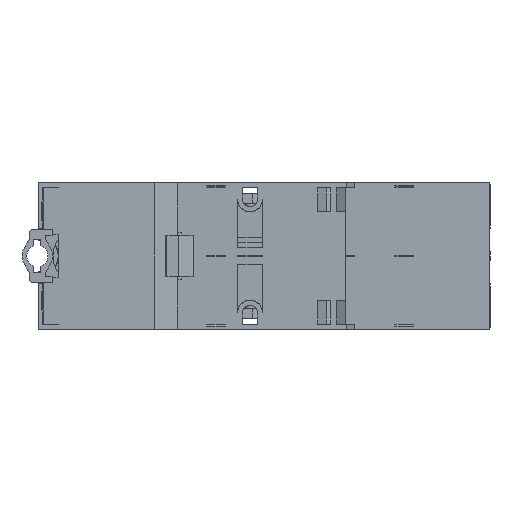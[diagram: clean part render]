
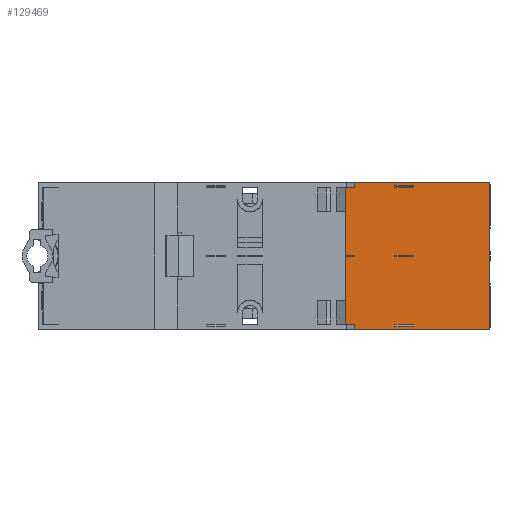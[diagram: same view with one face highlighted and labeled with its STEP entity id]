
A CAD part, front view. The second image highlights one B-rep face of the part: STEP entity #129469.
In plain terms, the highlighted planar face has unit normal (0, -1, 0).
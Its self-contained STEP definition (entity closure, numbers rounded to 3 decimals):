
#4129=CIRCLE('',#169313,0.3);
#4130=CIRCLE('',#169314,0.3);
#19382=ORIENTED_EDGE('',*,*,#45193,.F.);
#19383=ORIENTED_EDGE('',*,*,#45194,.T.);
#19384=ORIENTED_EDGE('',*,*,#45195,.T.);
#19385=ORIENTED_EDGE('',*,*,#45196,.F.);
#19386=ORIENTED_EDGE('',*,*,#45197,.F.);
#19387=ORIENTED_EDGE('',*,*,#45198,.T.);
#19388=ORIENTED_EDGE('',*,*,#45199,.T.);
#19389=ORIENTED_EDGE('',*,*,#45200,.F.);
#19390=ORIENTED_EDGE('',*,*,#45201,.F.);
#19391=ORIENTED_EDGE('',*,*,#45202,.F.);
#19392=ORIENTED_EDGE('',*,*,#45203,.T.);
#19393=ORIENTED_EDGE('',*,*,#45204,.F.);
#19394=ORIENTED_EDGE('',*,*,#45205,.F.);
#19395=ORIENTED_EDGE('',*,*,#45206,.F.);
#19396=ORIENTED_EDGE('',*,*,#45207,.F.);
#19397=ORIENTED_EDGE('',*,*,#45208,.F.);
#19398=ORIENTED_EDGE('',*,*,#45209,.F.);
#19399=ORIENTED_EDGE('',*,*,#45210,.F.);
#19400=ORIENTED_EDGE('',*,*,#45211,.F.);
#19401=ORIENTED_EDGE('',*,*,#45212,.T.);
#19402=ORIENTED_EDGE('',*,*,#45213,.F.);
#19403=ORIENTED_EDGE('',*,*,#45214,.F.);
#19404=ORIENTED_EDGE('',*,*,#45215,.F.);
#19405=ORIENTED_EDGE('',*,*,#45216,.F.);
#19406=ORIENTED_EDGE('',*,*,#45217,.F.);
#19407=ORIENTED_EDGE('',*,*,#45218,.F.);
#45193=EDGE_CURVE('',#67703,#67704,#86643,.T.);
#45194=EDGE_CURVE('',#67703,#67705,#86644,.T.);
#45195=EDGE_CURVE('',#67705,#67706,#86645,.T.);
#45196=EDGE_CURVE('',#67704,#67706,#86646,.T.);
#45197=EDGE_CURVE('',#67707,#67708,#86647,.T.);
#45198=EDGE_CURVE('',#67707,#67709,#86648,.T.);
#45199=EDGE_CURVE('',#67709,#67710,#86649,.T.);
#45200=EDGE_CURVE('',#67708,#67710,#86650,.T.);
#45201=EDGE_CURVE('',#67711,#67712,#86651,.T.);
#45202=EDGE_CURVE('',#67713,#67711,#86652,.T.);
#45203=EDGE_CURVE('',#67713,#67714,#86653,.T.);
#45204=EDGE_CURVE('',#67712,#67714,#86654,.T.);
#45205=EDGE_CURVE('',#67715,#67716,#86655,.T.);
#45206=EDGE_CURVE('',#67717,#67715,#86656,.T.);
#45207=EDGE_CURVE('',#67718,#67717,#86657,.T.);
#45208=EDGE_CURVE('',#67719,#67718,#86658,.T.);
#45209=EDGE_CURVE('',#67720,#67719,#86659,.T.);
#45210=EDGE_CURVE('',#67721,#67720,#86660,.T.);
#45211=EDGE_CURVE('',#67722,#67721,#4129,.T.);
#45212=EDGE_CURVE('',#67722,#67723,#86661,.T.);
#45213=EDGE_CURVE('',#67724,#67723,#4130,.T.);
#45214=EDGE_CURVE('',#67725,#67724,#86662,.T.);
#45215=EDGE_CURVE('',#67726,#67725,#86663,.T.);
#45216=EDGE_CURVE('',#67727,#67726,#86664,.T.);
#45217=EDGE_CURVE('',#67728,#67727,#86665,.T.);
#45218=EDGE_CURVE('',#67716,#67728,#86666,.T.);
#67703=VERTEX_POINT('',#241241);
#67704=VERTEX_POINT('',#241242);
#67705=VERTEX_POINT('',#241244);
#67706=VERTEX_POINT('',#241246);
#67707=VERTEX_POINT('',#241249);
#67708=VERTEX_POINT('',#241250);
#67709=VERTEX_POINT('',#241252);
#67710=VERTEX_POINT('',#241254);
#67711=VERTEX_POINT('',#241257);
#67712=VERTEX_POINT('',#241258);
#67713=VERTEX_POINT('',#241260);
#67714=VERTEX_POINT('',#241262);
#67715=VERTEX_POINT('',#241265);
#67716=VERTEX_POINT('',#241266);
#67717=VERTEX_POINT('',#241268);
#67718=VERTEX_POINT('',#241270);
#67719=VERTEX_POINT('',#241272);
#67720=VERTEX_POINT('',#241274);
#67721=VERTEX_POINT('',#241276);
#67722=VERTEX_POINT('',#241278);
#67723=VERTEX_POINT('',#241280);
#67724=VERTEX_POINT('',#241282);
#67725=VERTEX_POINT('',#241284);
#67726=VERTEX_POINT('',#241286);
#67727=VERTEX_POINT('',#241288);
#67728=VERTEX_POINT('',#241290);
#86643=LINE('',#241240,#105476);
#86644=LINE('',#241243,#105477);
#86645=LINE('',#241245,#105478);
#86646=LINE('',#241247,#105479);
#86647=LINE('',#241248,#105480);
#86648=LINE('',#241251,#105481);
#86649=LINE('',#241253,#105482);
#86650=LINE('',#241255,#105483);
#86651=LINE('',#241256,#105484);
#86652=LINE('',#241259,#105485);
#86653=LINE('',#241261,#105486);
#86654=LINE('',#241263,#105487);
#86655=LINE('',#241264,#105488);
#86656=LINE('',#241267,#105489);
#86657=LINE('',#241269,#105490);
#86658=LINE('',#241271,#105491);
#86659=LINE('',#241273,#105492);
#86660=LINE('',#241275,#105493);
#86661=LINE('',#241279,#105494);
#86662=LINE('',#241283,#105495);
#86663=LINE('',#241285,#105496);
#86664=LINE('',#241287,#105497);
#86665=LINE('',#241289,#105498);
#86666=LINE('',#241291,#105499);
#105476=VECTOR('',#194271,1000.);
#105477=VECTOR('',#194272,1000.);
#105478=VECTOR('',#194273,1000.);
#105479=VECTOR('',#194274,1000.);
#105480=VECTOR('',#194275,1000.);
#105481=VECTOR('',#194276,1000.);
#105482=VECTOR('',#194277,1000.);
#105483=VECTOR('',#194278,1000.);
#105484=VECTOR('',#194279,1000.);
#105485=VECTOR('',#194280,1000.);
#105486=VECTOR('',#194281,1000.);
#105487=VECTOR('',#194282,1000.);
#105488=VECTOR('',#194283,1000.);
#105489=VECTOR('',#194284,1000.);
#105490=VECTOR('',#194285,1000.);
#105491=VECTOR('',#194286,1000.);
#105492=VECTOR('',#194287,1000.);
#105493=VECTOR('',#194288,1000.);
#105494=VECTOR('',#194291,1000.);
#105495=VECTOR('',#194294,1000.);
#105496=VECTOR('',#194295,1000.);
#105497=VECTOR('',#194296,1000.);
#105498=VECTOR('',#194297,1000.);
#105499=VECTOR('',#194298,1000.);
#115245=EDGE_LOOP('',(#19382,#19383,#19384,#19385));
#115246=EDGE_LOOP('',(#19386,#19387,#19388,#19389));
#115247=EDGE_LOOP('',(#19390,#19391,#19392,#19393));
#115248=EDGE_LOOP('',(#19394,#19395,#19396,#19397,#19398,#19399,#19400,
#19401,#19402,#19403,#19404,#19405,#19406,#19407));
#120581=FACE_BOUND('',#115245,.T.);
#120582=FACE_BOUND('',#115246,.T.);
#120583=FACE_BOUND('',#115247,.T.);
#120584=FACE_BOUND('',#115248,.T.);
#125050=PLANE('',#169312);
#129469=ADVANCED_FACE('',(#120581,#120582,#120583,#120584),#125050,.T.);
#169312=AXIS2_PLACEMENT_3D('',#241239,#194269,#194270);
#169313=AXIS2_PLACEMENT_3D('',#241277,#194289,#194290);
#169314=AXIS2_PLACEMENT_3D('',#241281,#194292,#194293);
#194269=DIRECTION('',(0.,-1.,0.));
#194270=DIRECTION('',(1.,0.,0.));
#194271=DIRECTION('',(0.,0.,1.));
#194272=DIRECTION('',(-1.,0.,0.));
#194273=DIRECTION('',(0.,0.,1.));
#194274=DIRECTION('',(-1.,0.,0.));
#194275=DIRECTION('',(1.,0.,0.));
#194276=DIRECTION('',(0.,0.,1.));
#194277=DIRECTION('',(1.,0.,0.));
#194278=DIRECTION('',(0.,0.,1.));
#194279=DIRECTION('',(0.,0.,1.));
#194280=DIRECTION('',(1.,0.,0.));
#194281=DIRECTION('',(0.,0.,1.));
#194282=DIRECTION('',(-1.,0.,0.));
#194283=DIRECTION('',(0.,0.,1.));
#194284=DIRECTION('',(1.,0.,0.));
#194285=DIRECTION('',(0.,0.,1.));
#194286=DIRECTION('',(-1.,0.,0.));
#194287=DIRECTION('',(0.,0.,1.));
#194288=DIRECTION('',(-1.,0.,0.));
#194289=DIRECTION('',(0.,1.,0.));
#194290=DIRECTION('',(0.707,0.,-0.707));
#194291=DIRECTION('',(0.,0.,1.));
#194292=DIRECTION('',(0.,1.,0.));
#194293=DIRECTION('',(0.707,0.,0.707));
#194294=DIRECTION('',(1.,0.,0.));
#194295=DIRECTION('',(0.,0.,1.));
#194296=DIRECTION('',(1.,0.,0.));
#194297=DIRECTION('',(0.,0.,1.));
#194298=DIRECTION('',(-1.,0.,0.));
#241239=CARTESIAN_POINT('',(66.825,0.,0.));
#241240=CARTESIAN_POINT('',(79.4,0.,-14.5));
#241241=CARTESIAN_POINT('',(79.4,0.,-14.8));
#241242=CARTESIAN_POINT('',(79.4,0.,-14.4));
#241243=CARTESIAN_POINT('',(72.113,0.,-14.8));
#241244=CARTESIAN_POINT('',(75.4,0.,-14.8));
#241245=CARTESIAN_POINT('',(75.4,0.,-14.5));
#241246=CARTESIAN_POINT('',(75.4,0.,-14.4));
#241247=CARTESIAN_POINT('',(65.,0.,-14.4));
#241248=CARTESIAN_POINT('',(65.,0.,14.4));
#241249=CARTESIAN_POINT('',(75.4,0.,14.4));
#241250=CARTESIAN_POINT('',(79.4,0.,14.4));
#241251=CARTESIAN_POINT('',(75.4,0.,-14.5));
#241252=CARTESIAN_POINT('',(75.4,0.,14.8));
#241253=CARTESIAN_POINT('',(72.113,0.,14.8));
#241254=CARTESIAN_POINT('',(79.4,0.,14.8));
#241255=CARTESIAN_POINT('',(79.4,0.,-14.5));
#241256=CARTESIAN_POINT('',(79.4,0.,-14.5));
#241257=CARTESIAN_POINT('',(79.4,0.,-0.05));
#241258=CARTESIAN_POINT('',(79.4,0.,0.05));
#241259=CARTESIAN_POINT('',(65.,0.,-0.05));
#241260=CARTESIAN_POINT('',(75.4,0.,-0.05));
#241261=CARTESIAN_POINT('',(75.4,0.,-14.5));
#241262=CARTESIAN_POINT('',(75.4,0.,0.05));
#241263=CARTESIAN_POINT('',(94.4,0.,0.05));
#241264=CARTESIAN_POINT('',(66.825,0.,0.));
#241265=CARTESIAN_POINT('',(66.825,0.,-0.05));
#241266=CARTESIAN_POINT('',(66.825,0.,0.05));
#241267=CARTESIAN_POINT('',(65.,0.,-0.05));
#241268=CARTESIAN_POINT('',(65.,0.,-0.05));
#241269=CARTESIAN_POINT('',(65.,0.,-7.6));
#241270=CARTESIAN_POINT('',(65.,0.,-14.4));
#241271=CARTESIAN_POINT('',(65.,0.,-14.4));
#241272=CARTESIAN_POINT('',(66.825,0.,-14.4));
#241273=CARTESIAN_POINT('',(66.825,0.,0.));
#241274=CARTESIAN_POINT('',(66.825,0.,-15.5));
#241275=CARTESIAN_POINT('',(66.825,0.,-15.5));
#241276=CARTESIAN_POINT('',(95.2,0.,-15.5));
#241277=CARTESIAN_POINT('',(95.2,0.,-15.2));
#241278=CARTESIAN_POINT('',(95.5,0.,-15.2));
#241279=CARTESIAN_POINT('',(95.5,0.,0.));
#241280=CARTESIAN_POINT('',(95.5,0.,15.2));
#241281=CARTESIAN_POINT('',(95.2,0.,15.2));
#241282=CARTESIAN_POINT('',(95.2,0.,15.5));
#241283=CARTESIAN_POINT('',(66.825,0.,15.5));
#241284=CARTESIAN_POINT('',(66.825,0.,15.5));
#241285=CARTESIAN_POINT('',(66.825,0.,0.));
#241286=CARTESIAN_POINT('',(66.825,0.,14.4));
#241287=CARTESIAN_POINT('',(65.,0.,14.4));
#241288=CARTESIAN_POINT('',(65.,0.,14.4));
#241289=CARTESIAN_POINT('',(65.,0.,7.6));
#241290=CARTESIAN_POINT('',(65.,0.,0.05));
#241291=CARTESIAN_POINT('',(94.4,0.,0.05));
